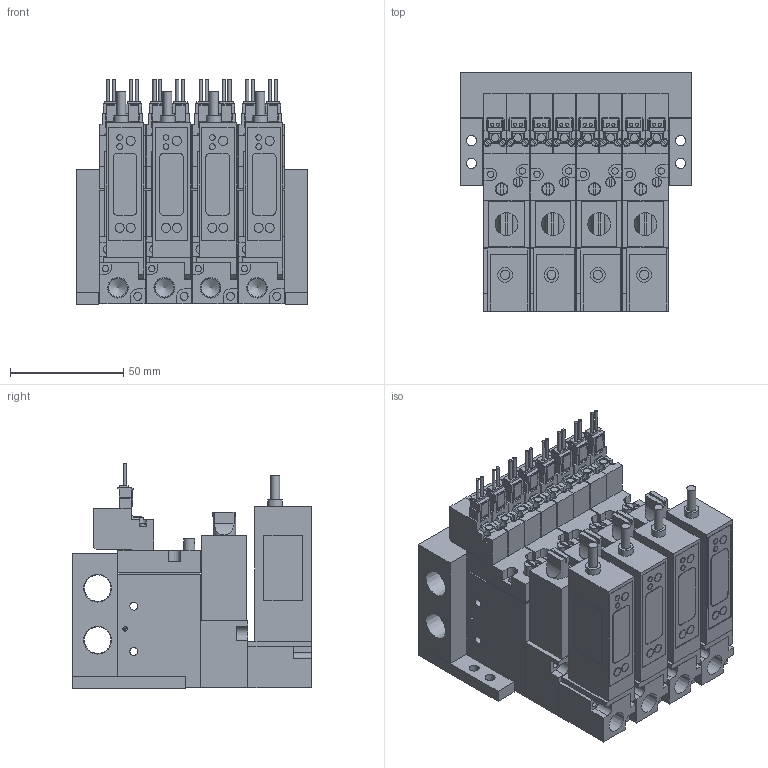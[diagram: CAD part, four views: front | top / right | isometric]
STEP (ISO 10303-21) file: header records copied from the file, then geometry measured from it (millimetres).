
FILE_DESCRIPTION(('STEP AP203'),'1');
FILE_NAME('BMPV32M2NV(R)G25BL404.stp','2025-06-17T01:05:43',(' '),(' '),'Spatial InterOp 3D',' ',' ');
FILE_SCHEMA(('CONFIG_CONTROL_DESIGN'));
Length unit declared in the file: millimetre
Products named in the file (52): BMPV32M2NV(R)G25BL404; Pressure sensor VGL; ___-3(Rc); Filter Assy; __; _____; ___ ___; MB04; MB BRACKET; ___; upper plate-A; ______; ____; VACUUM VALVE FUNCTION MPV42-A
Assembly tree (51 placements, depth 2):
  BMPV32M2NV(R)G25BL404
    Pressure sensor VGL
    ___-3(Rc)
    Filter Assy
    __
    _____
    ___ ___
    Pressure sensor VGL
    ___-3(Rc)
    Filter Assy
    __
    _____
    ___ ___
    Pressure sensor VGL
    ___-3(Rc)
    Filter Assy
    __
    _____
    ___ ___
    MB04
    MB BRACKET
    MB BRACKET
    Pressure sensor VGL
    ___-3(Rc)
    Filter Assy
    __
    _____
    ___ ___
    ___
    upper plate-A
    ______
    ____
    VACUUM VALVE FUNCTION MPV42-A
    VACUUM VALVE FUNCTION MPV42-A
    ___
    upper plate-A
    ______
    ____
    VACUUM VALVE FUNCTION MPV42-A
    VACUUM VALVE FUNCTION MPV42-A
    ___
    upper plate-A
    ______
    ____
    VACUUM VALVE FUNCTION MPV42-A
    VACUUM VALVE FUNCTION MPV42-A
    ___
    upper plate-A
    ______
    ____
    VACUUM VALVE FUNCTION MPV42-A
    VACUUM VALVE FUNCTION MPV42-A
Bounding box: 102.5 x 105.5 x 99.75 mm (x, y, z)
Volume: 534442.2 mm3; surface area: 174914.8 mm2
Topology: 51 solids, 51 shells, 1543 faces, 4000 edges, 2668 vertices
Faces by surface type: plane 1225, cylinder 282, cone 36
Full cylindrical faces by diameter (mm): 1.4 x16, 1.8 x8, 2 x8, 2.5 x20, 2.8 x16, 3 x16, 3.5 x44, 4 x20, 4.2 x4, 4.5 x4, 5 x4, 5.5 x4, 6.5 x10, 8.2 x4, 8.759 x4, 11.776 x2
Entity records: 47986 total; most frequent: CARTESIAN_POINT 8155, DIRECTION 7558, ORIENTED_EDGE 7344, EDGE_CURVE 3672, LINE 2944, VECTOR 2944, VERTEX_POINT 2592, AXIS2_PLACEMENT_3D 2307
